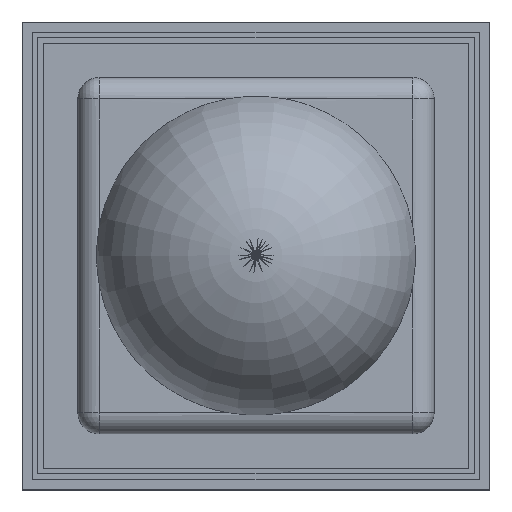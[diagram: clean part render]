
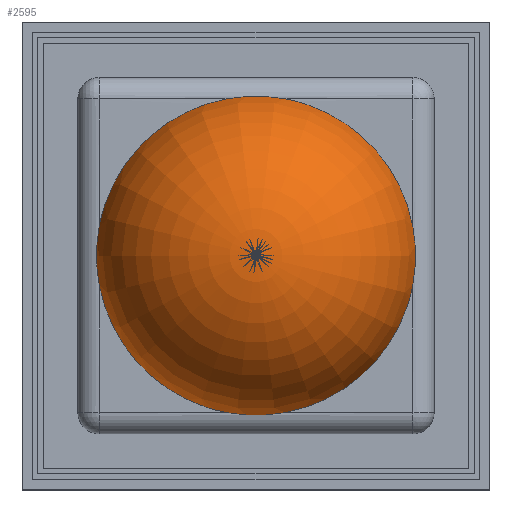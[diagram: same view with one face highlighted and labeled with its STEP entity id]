
A CAD part, top view. The second image highlights one B-rep face of the part: STEP entity #2595.
In plain terms, the highlighted toroidal (fillet/blend) face has major radius 0.019 mm and minor radius 1.5 mm.
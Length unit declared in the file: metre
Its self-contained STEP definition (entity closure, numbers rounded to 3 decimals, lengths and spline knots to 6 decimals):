
#47=VERTEX_LOOP('',#1380);
#48=DEGENERATE_TOROIDAL_SURFACE('',#2890,0.000019,0.0015,.T.);
#53=B_SPLINE_CURVE_WITH_KNOTS('',3,(#3677,#3678,#3679,#3680),
 .UNSPECIFIED.,.F.,.F.,(4,4),(0.,1.),.UNSPECIFIED.);
#54=B_SPLINE_CURVE_WITH_KNOTS('',3,(#3687,#3688,#3689,#3690),
 .UNSPECIFIED.,.F.,.F.,(4,4),(0.,1.),.UNSPECIFIED.);
#55=B_SPLINE_CURVE_WITH_KNOTS('',3,(#3697,#3698,#3699,#3700),
 .UNSPECIFIED.,.F.,.F.,(4,4),(0.,1.),.UNSPECIFIED.);
#56=B_SPLINE_CURVE_WITH_KNOTS('',3,(#3710,#3711,#3712,#3713),
 .UNSPECIFIED.,.F.,.F.,(4,4),(0.238556,0.759286),
 .UNSPECIFIED.);
#57=B_SPLINE_CURVE_WITH_KNOTS('',3,(#3720,#3721,#3722,#3723),
 .UNSPECIFIED.,.F.,.F.,(4,4),(0.238607,0.758558),
 .UNSPECIFIED.);
#58=B_SPLINE_CURVE_WITH_KNOTS('',3,(#3730,#3731,#3732,#3733),
 .UNSPECIFIED.,.F.,.F.,(4,4),(0.238214,0.758945),
 .UNSPECIFIED.);
#59=B_SPLINE_CURVE_WITH_KNOTS('',3,(#3742,#3743,#3744,#3745),
 .UNSPECIFIED.,.F.,.F.,(4,4),(0.237873,0.758604),
 .UNSPECIFIED.);
#60=B_SPLINE_CURVE_WITH_KNOTS('',3,(#3776,#3777,#3778,#3779),
 .UNSPECIFIED.,.F.,.F.,(4,4),(0.,1.),.UNSPECIFIED.);
#381=ORIENTED_EDGE('',*,*,#998,.F.);
#382=ORIENTED_EDGE('',*,*,#1009,.F.);
#383=ORIENTED_EDGE('',*,*,#1001,.F.);
#384=ORIENTED_EDGE('',*,*,#1005,.F.);
#385=ORIENTED_EDGE('',*,*,#1034,.F.);
#386=ORIENTED_EDGE('',*,*,#1013,.F.);
#387=ORIENTED_EDGE('',*,*,#995,.F.);
#388=ORIENTED_EDGE('',*,*,#1018,.F.);
#995=EDGE_CURVE('',#1352,#1353,#53,.F.);
#998=EDGE_CURVE('',#1355,#1356,#54,.F.);
#1001=EDGE_CURVE('',#1358,#1359,#55,.F.);
#1005=EDGE_CURVE('',#1361,#1358,#56,.T.);
#1009=EDGE_CURVE('',#1359,#1355,#57,.T.);
#1013=EDGE_CURVE('',#1353,#1367,#58,.T.);
#1018=EDGE_CURVE('',#1356,#1352,#59,.T.);
#1034=EDGE_CURVE('',#1367,#1361,#60,.F.);
#1352=VERTEX_POINT('',#3681);
#1353=VERTEX_POINT('',#3682);
#1355=VERTEX_POINT('',#3691);
#1356=VERTEX_POINT('',#3692);
#1358=VERTEX_POINT('',#3701);
#1359=VERTEX_POINT('',#3702);
#1361=VERTEX_POINT('',#3708);
#1367=VERTEX_POINT('',#3734);
#1380=VERTEX_POINT('',#3798);
#2158=EDGE_LOOP('',(#381,#382,#383,#384,#385,#386,#387,#388));
#2323=FACE_BOUND('',#47,.T.);
#2324=FACE_BOUND('',#2158,.T.);
#2595=ADVANCED_FACE('',(#2323,#2324),#48,.T.);
#2890=AXIS2_PLACEMENT_3D('',#3797,#3170,#3171);
#3170=DIRECTION('',(0.,0.,-1.));
#3171=DIRECTION('',(-1.,0.,0.));
#3677=CARTESIAN_POINT('',(0.001475,0.000271,0.0018));
#3678=CARTESIAN_POINT('',(0.001362,0.000883,0.0018));
#3679=CARTESIAN_POINT('',(0.000884,0.001362,0.0018));
#3680=CARTESIAN_POINT('',(0.000271,0.001475,0.0018));
#3681=CARTESIAN_POINT('',(0.000273,0.001475,0.001799));
#3682=CARTESIAN_POINT('',(0.001475,0.000273,0.0018));
#3687=CARTESIAN_POINT('',(-0.000271,0.001475,0.0018));
#3688=CARTESIAN_POINT('',(-0.000883,0.001362,0.0018));
#3689=CARTESIAN_POINT('',(-0.001362,0.000884,0.0018));
#3690=CARTESIAN_POINT('',(-0.001475,0.000271,0.0018));
#3691=CARTESIAN_POINT('',(-0.001475,0.000273,0.0018));
#3692=CARTESIAN_POINT('',(-0.000273,0.001475,0.001799));
#3697=CARTESIAN_POINT('',(-0.001475,-0.000271,0.0018));
#3698=CARTESIAN_POINT('',(-0.001362,-0.000883,0.0018));
#3699=CARTESIAN_POINT('',(-0.000884,-0.001362,0.0018));
#3700=CARTESIAN_POINT('',(-0.000271,-0.001475,0.0018));
#3701=CARTESIAN_POINT('',(-0.000273,-0.001475,0.0018));
#3702=CARTESIAN_POINT('',(-0.001475,-0.000273,0.0018));
#3708=CARTESIAN_POINT('',(0.000273,-0.001475,0.0018));
#3710=CARTESIAN_POINT('',(0.000272,-0.001475,0.0018));
#3711=CARTESIAN_POINT('',(0.000091,-0.001508,0.0018));
#3712=CARTESIAN_POINT('',(-0.000091,-0.001508,0.0018));
#3713=CARTESIAN_POINT('',(-0.000272,-0.001475,0.0018));
#3720=CARTESIAN_POINT('',(-0.001475,-0.000272,0.0018));
#3721=CARTESIAN_POINT('',(-0.001508,-0.000091,0.0018));
#3722=CARTESIAN_POINT('',(-0.001508,0.000091,0.0018));
#3723=CARTESIAN_POINT('',(-0.001475,0.000272,0.0018));
#3730=CARTESIAN_POINT('',(0.001475,0.000272,0.0018));
#3731=CARTESIAN_POINT('',(0.001508,0.000091,0.0018));
#3732=CARTESIAN_POINT('',(0.001508,-0.000091,0.0018));
#3733=CARTESIAN_POINT('',(0.001475,-0.000272,0.0018));
#3734=CARTESIAN_POINT('',(0.001475,-0.000273,0.0018));
#3742=CARTESIAN_POINT('',(-0.000272,0.001475,0.0018));
#3743=CARTESIAN_POINT('',(-0.000091,0.001508,0.0018));
#3744=CARTESIAN_POINT('',(0.000091,0.001508,0.0018));
#3745=CARTESIAN_POINT('',(0.000272,0.001475,0.0018));
#3776=CARTESIAN_POINT('',(0.000271,-0.001475,0.0018));
#3777=CARTESIAN_POINT('',(0.000883,-0.001362,0.0018));
#3778=CARTESIAN_POINT('',(0.001362,-0.000884,0.0018));
#3779=CARTESIAN_POINT('',(0.001475,-0.000271,0.0018));
#3797=CARTESIAN_POINT('',(0.,0.,0.00156));
#3798=CARTESIAN_POINT('',(0.,0.,0.00306));
